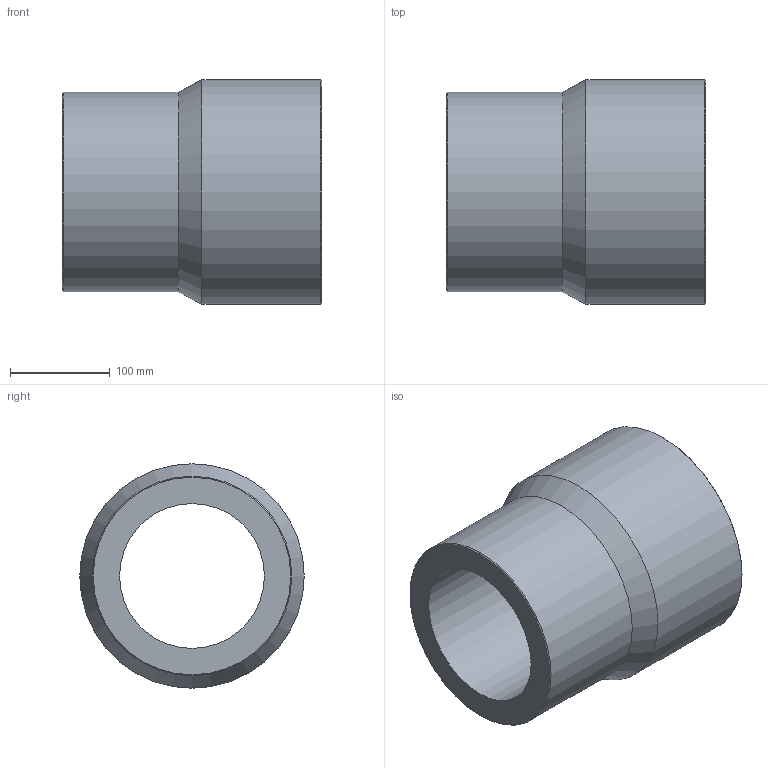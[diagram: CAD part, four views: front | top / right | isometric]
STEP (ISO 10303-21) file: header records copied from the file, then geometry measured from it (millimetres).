
FILE_DESCRIPTION(/* description */ ('Unknown'),/* implementation_level */ '2;1');
FILE_NAME(/* name */ 'RP225200H',/* time_stamp */ '2021-09-16T15:14:24+02:00',/* author */ ('Unknown'),/* organization */ ('Unknown'),/* preprocessor_version */ 'ST-DEVELOPER v16.7',/* originating_system */ 'Solid Edge',/* authorisation */ 'Unknown');
FILE_SCHEMA (('AUTOMOTIVE_DESIGN {1 0 10303 214 3 1 1}'));
Length unit declared in the file: millimetre
Products named in the file (1): RP225200H
Bounding box: 260 x 225 x 225 mm (x, y, z)
Volume: 4418015.3 mm3; surface area: 335140.3 mm2
Topology: 1 solids, 1 shells, 10 faces, 19 edges, 11 vertices
Faces by surface type: cylinder 4, cone 4, plane 2
Full cylindrical faces by diameter (mm): 145.2 x1, 163.4 x1, 200 x1, 225 x1
Entity records: 238 total; most frequent: DIRECTION 42, CARTESIAN_POINT 31, AXIS2_PLACEMENT_3D 21, ORIENTED_EDGE 20, EDGE_LOOP 20, FACE_BOUND 20, EDGE_CURVE 10, VERTEX_POINT 10
